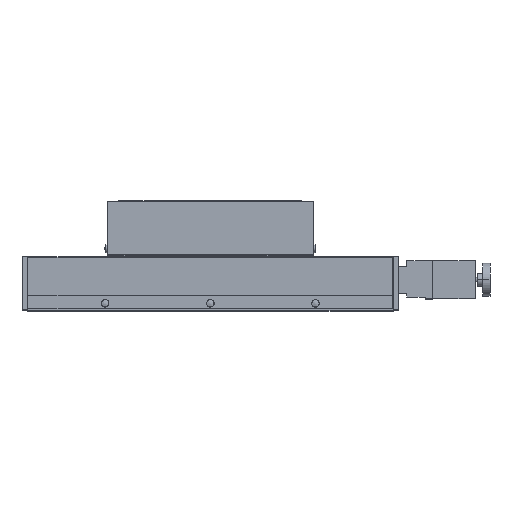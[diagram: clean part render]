
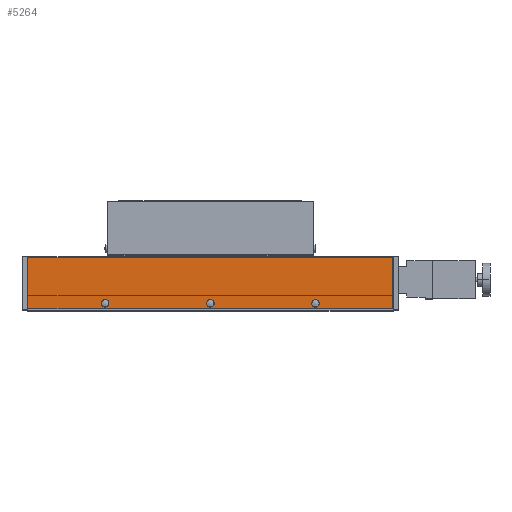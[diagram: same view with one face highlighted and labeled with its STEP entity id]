
A CAD part, top view. The second image highlights one B-rep face of the part: STEP entity #5264.
In plain terms, the highlighted planar face has unit normal (0, 0, 1).
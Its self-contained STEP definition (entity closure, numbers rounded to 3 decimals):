
#1007 = DIRECTION ( 'NONE',  ( 0., -1., 0. ) ) ;
#1010 = DIRECTION ( 'NONE',  ( 0., 0., 1. ) ) ;
#1012 = AXIS2_PLACEMENT_3D ( 'NONE', #1022, #1010, #1007 ) ;
#1014 = CIRCLE ( 'NONE', #1012, 4.15 ) ;
#1022 = CARTESIAN_POINT ( 'NONE',  ( -115., 8., 113. ) ) ;
#1031 = DIRECTION ( 'NONE',  ( 0., -1., 0. ) ) ;
#1033 = DIRECTION ( 'NONE',  ( 0., 0., 1. ) ) ;
#1034 = CARTESIAN_POINT ( 'NONE',  ( 115., 8., 113. ) ) ;
#1035 = AXIS2_PLACEMENT_3D ( 'NONE', #1034, #1033, #1031 ) ;
#1037 = CIRCLE ( 'NONE', #1035, 4.15 ) ;
#2049 = DIRECTION ( 'NONE',  ( 0., -1., 0. ) ) ;
#2050 = DIRECTION ( 'NONE',  ( 0., 0., 1. ) ) ;
#2051 = CARTESIAN_POINT ( 'NONE',  ( 0., 8., 113. ) ) ;
#2052 = AXIS2_PLACEMENT_3D ( 'NONE', #2051, #2050, #2049 ) ;
#2053 = CIRCLE ( 'NONE', #2052, 4.15 ) ;
#4661 = EDGE_CURVE ( 'NONE', #26138, #26135, #1037, .T. ) ;
#4668 = EDGE_CURVE ( 'NONE', #26124, #26121, #1014, .T. ) ;
#4732 = EDGE_CURVE ( 'NONE', #26065, #26062, #2053, .T. ) ;
#5218 = ORIENTED_EDGE ( 'NONE', *, *, #4668, .F. ) ;
#5219 = ORIENTED_EDGE ( 'NONE', *, *, #26123, .F. ) ;
#5220 = EDGE_LOOP ( 'NONE', ( #5221, #5222 ) ) ;
#5221 = ORIENTED_EDGE ( 'NONE', *, *, #4661, .F. ) ;
#5222 = ORIENTED_EDGE ( 'NONE', *, *, #26137, .F. ) ;
#5264 = ADVANCED_FACE ( 'NONE', ( #19709, #19708, #19707, #19706 ), #19705, .F. ) ;
#5265 = EDGE_LOOP ( 'NONE', ( #5266, #5267 ) ) ;
#5266 = ORIENTED_EDGE ( 'NONE', *, *, #4732, .F. ) ;
#5267 = ORIENTED_EDGE ( 'NONE', *, *, #26064, .F. ) ;
#5268 = EDGE_LOOP ( 'NONE', ( #5269, #5272, #5275, #5277 ) ) ;
#5269 = ORIENTED_EDGE ( 'NONE', *, *, #5270, .T. ) ;
#5270 = EDGE_CURVE ( 'NONE', #5518, #5271, #19700, .T. ) ;
#5271 = VERTEX_POINT ( 'NONE', #19696 ) ;
#5272 = ORIENTED_EDGE ( 'NONE', *, *, #5274, .F. ) ;
#5273 = VERTEX_POINT ( 'NONE', #19695 ) ;
#5274 = EDGE_CURVE ( 'NONE', #5273, #5271, #19694, .T. ) ;
#5275 = ORIENTED_EDGE ( 'NONE', *, *, #5276, .F. ) ;
#5276 = EDGE_CURVE ( 'NONE', #5521, #5273, #19690, .T. ) ;
#5277 = ORIENTED_EDGE ( 'NONE', *, *, #5520, .T. ) ;
#5292 = EDGE_LOOP ( 'NONE', ( #5218, #5219 ) ) ;
#5518 = VERTEX_POINT ( 'NONE', #9467 ) ;
#5520 = EDGE_CURVE ( 'NONE', #5521, #5518, #9466, .T. ) ;
#5521 = VERTEX_POINT ( 'NONE', #9462 ) ;
#9462 = CARTESIAN_POINT ( 'NONE',  ( -199.5, 2., 113. ) ) ;
#9463 = DIRECTION ( 'NONE',  ( 1., 0., 0. ) ) ;
#9464 = VECTOR ( 'NONE', #9463, 1000. ) ;
#9465 = CARTESIAN_POINT ( 'NONE',  ( -199.5, 2., 113. ) ) ;
#9466 = LINE ( 'NONE', #9465, #9464 ) ;
#9467 = CARTESIAN_POINT ( 'NONE',  ( 199.5, 2., 113. ) ) ;
#17296 = CARTESIAN_POINT ( 'NONE',  ( 0., 12.15, 113. ) ) ;
#17297 = DIRECTION ( 'NONE',  ( 0., -1., 0. ) ) ;
#17298 = DIRECTION ( 'NONE',  ( 0., 0., 1. ) ) ;
#17299 = CARTESIAN_POINT ( 'NONE',  ( 0., 8., 113. ) ) ;
#17300 = AXIS2_PLACEMENT_3D ( 'NONE', #17299, #17298, #17297 ) ;
#17302 = CIRCLE ( 'NONE', #17300, 4.15 ) ;
#17306 = CARTESIAN_POINT ( 'NONE',  ( 0., 3.85, 113. ) ) ;
#17868 = CARTESIAN_POINT ( 'NONE',  ( 115., 12.15, 113. ) ) ;
#17871 = DIRECTION ( 'NONE',  ( 0., -1., 0. ) ) ;
#17873 = DIRECTION ( 'NONE',  ( 0., 0., 1. ) ) ;
#17874 = CARTESIAN_POINT ( 'NONE',  ( 115., 8., 113. ) ) ;
#17875 = AXIS2_PLACEMENT_3D ( 'NONE', #17874, #17873, #17871 ) ;
#17876 = CIRCLE ( 'NONE', #17875, 4.15 ) ;
#17883 = CARTESIAN_POINT ( 'NONE',  ( 115., 3.85, 113. ) ) ;
#18211 = CARTESIAN_POINT ( 'NONE',  ( -115., 12.15, 113. ) ) ;
#18212 = DIRECTION ( 'NONE',  ( 0., -1., 0. ) ) ;
#18213 = DIRECTION ( 'NONE',  ( 0., 0., 1. ) ) ;
#18215 = CARTESIAN_POINT ( 'NONE',  ( -115., 8., 113. ) ) ;
#18216 = AXIS2_PLACEMENT_3D ( 'NONE', #18215, #18213, #18212 ) ;
#18218 = CIRCLE ( 'NONE', #18216, 4.15 ) ;
#18224 = CARTESIAN_POINT ( 'NONE',  ( -115., 3.85, 113. ) ) ;
#19687 = DIRECTION ( 'NONE',  ( 0., 1., 0. ) ) ;
#19688 = VECTOR ( 'NONE', #19687, 1000. ) ;
#19689 = CARTESIAN_POINT ( 'NONE',  ( -199.5, 59., 113. ) ) ;
#19690 = LINE ( 'NONE', #19689, #19688 ) ;
#19691 = DIRECTION ( 'NONE',  ( 1., 0., 0. ) ) ;
#19692 = VECTOR ( 'NONE', #19691, 1000. ) ;
#19693 = CARTESIAN_POINT ( 'NONE',  ( -199.5, 59., 113. ) ) ;
#19694 = LINE ( 'NONE', #19693, #19692 ) ;
#19695 = CARTESIAN_POINT ( 'NONE',  ( -199.5, 59., 113. ) ) ;
#19696 = CARTESIAN_POINT ( 'NONE',  ( 199.5, 59., 113. ) ) ;
#19697 = DIRECTION ( 'NONE',  ( 0., 1., 0. ) ) ;
#19698 = VECTOR ( 'NONE', #19697, 1000. ) ;
#19699 = CARTESIAN_POINT ( 'NONE',  ( 199.5, 59., 113. ) ) ;
#19700 = LINE ( 'NONE', #19699, #19698 ) ;
#19701 = DIRECTION ( 'NONE',  ( 0., -1., 0. ) ) ;
#19702 = DIRECTION ( 'NONE',  ( 0., 0., -1. ) ) ;
#19703 = CARTESIAN_POINT ( 'NONE',  ( -199.5, 59., 113. ) ) ;
#19704 = AXIS2_PLACEMENT_3D ( 'NONE', #19703, #19702, #19701 ) ;
#19705 = PLANE ( 'NONE',  #19704 ) ;
#19706 = FACE_BOUND ( 'NONE', #5220, .T. ) ;
#19707 = FACE_BOUND ( 'NONE', #5292, .T. ) ;
#19708 = FACE_OUTER_BOUND ( 'NONE', #5268, .T. ) ;
#19709 = FACE_BOUND ( 'NONE', #5265, .T. ) ;
#26062 = VERTEX_POINT ( 'NONE', #17306 ) ;
#26064 = EDGE_CURVE ( 'NONE', #26062, #26065, #17302, .T. ) ;
#26065 = VERTEX_POINT ( 'NONE', #17296 ) ;
#26121 = VERTEX_POINT ( 'NONE', #18224 ) ;
#26123 = EDGE_CURVE ( 'NONE', #26121, #26124, #18218, .T. ) ;
#26124 = VERTEX_POINT ( 'NONE', #18211 ) ;
#26135 = VERTEX_POINT ( 'NONE', #17883 ) ;
#26137 = EDGE_CURVE ( 'NONE', #26135, #26138, #17876, .T. ) ;
#26138 = VERTEX_POINT ( 'NONE', #17868 ) ;
